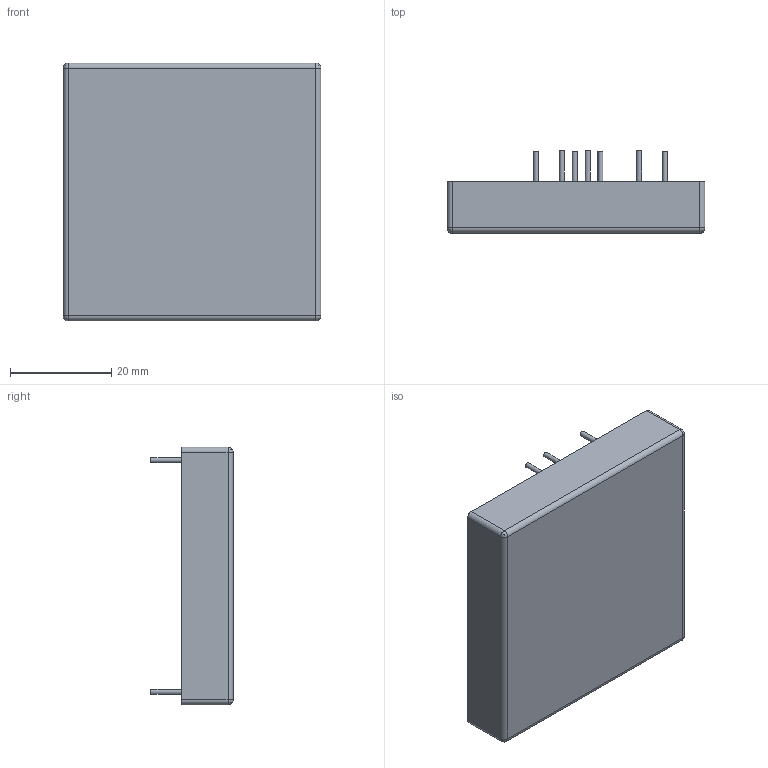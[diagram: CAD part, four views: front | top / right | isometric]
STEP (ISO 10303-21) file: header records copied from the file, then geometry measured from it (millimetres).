
FILE_DESCRIPTION(/* description */ ('Unknown'),/* implementation_level */ '2;1');
FILE_NAME(/* name */ 'JCK60(S)',/* time_stamp */ '2017-11-29T16:35:50+08:00',/* author */ ('Unknown'),/* organization */ ('Unknown'),/* preprocessor_version */ 'ST-DEVELOPER v16.7',/* originating_system */ 'DEX',/* authorisation */ $);
FILE_SCHEMA (('TECHNICAL_DATA_PACKAGING','AUTOMOTIVE_DESIGN {1 0 10303 214 3 1 1}'));
Length unit declared in the file: millimetre
Products named in the file (1): JCK60(S)
Bounding box: 50.8 x 16.2 x 50.8 mm (x, y, z)
Volume: 26308.5 mm3; surface area: 7278.6 mm2
Topology: 1 solids, 1 shells, 46 faces, 88 edges, 52 vertices
Faces by surface type: plane 26, cylinder 16, sphere 4
Full cylindrical faces by diameter (mm): 1 x8
Entity records: 1126 total; most frequent: DIRECTION 214, CARTESIAN_POINT 175, ORIENTED_EDGE 152, AXIS2_PLACEMENT_3D 91, EDGE_CURVE 76, EDGE_LOOP 66, FACE_BOUND 66, VERTEX_POINT 52
